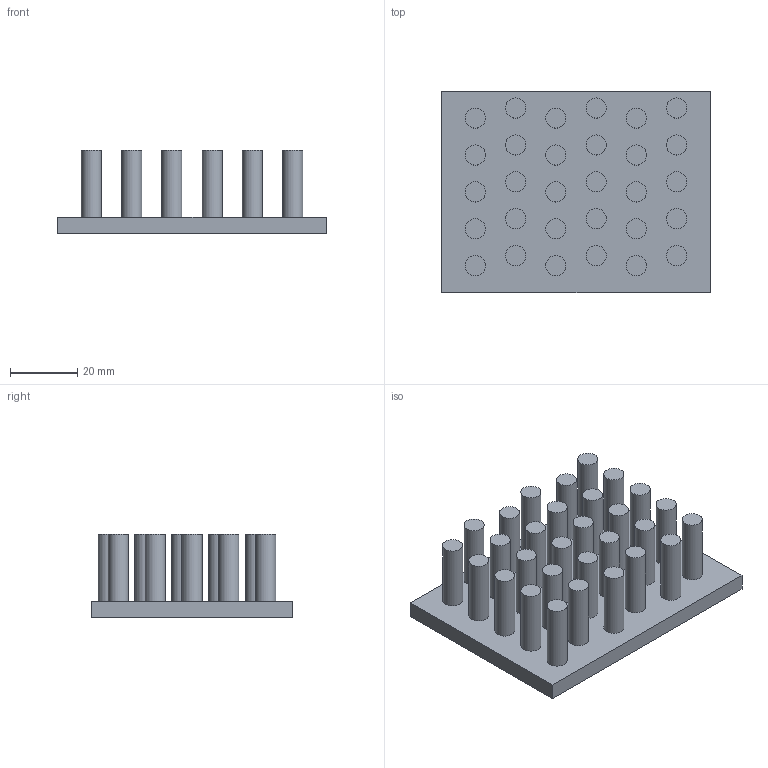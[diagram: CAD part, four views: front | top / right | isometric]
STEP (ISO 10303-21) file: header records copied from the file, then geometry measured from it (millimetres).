
FILE_DESCRIPTION(('FreeCAD Model'),'2;1');
FILE_NAME('Open CASCADE Shape Model','2026-11-03T10:07:26',('FreeCAD'),( 'FreeCAD'),'Open CASCADE STEP processor 7.8','FreeCAD','Unknown');
FILE_SCHEMA(('AUTOMOTIVE_DESIGN { 1 0 10303 214 1 1 1 1 }'));
Length unit declared in the file: millimetre
Products named in the file (1): Open CASCADE STEP translator 7.8 6
Bounding box: 80 x 60 x 25 mm (x, y, z)
Volume: 40964.6 mm3; surface area: 22309.7 mm2
Topology: 1 solids, 1 shells, 66 faces, 102 edges, 68 vertices
Faces by surface type: plane 36, cylinder 30
Full cylindrical faces by diameter (mm): 6 x30
Entity records: 1516 total; most frequent: DIRECTION 296, CARTESIAN_POINT 237, ORIENTED_EDGE 204, AXIS2_PLACEMENT_3D 127, EDGE_CURVE 102, FACE_BOUND 96, EDGE_LOOP 96, VERTEX_POINT 68
